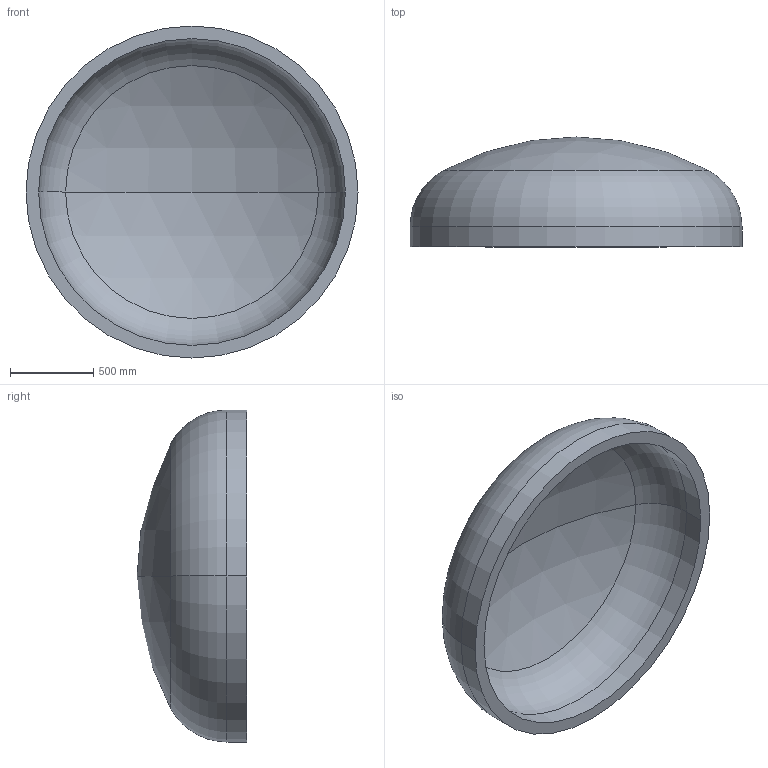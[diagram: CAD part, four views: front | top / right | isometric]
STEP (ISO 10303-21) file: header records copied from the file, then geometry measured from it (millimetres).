
FILE_DESCRIPTION (( 'STEP AP203' ), '1' );
FILE_NAME ('DIN 28013 Korbbogenform_-_Boden DIN 28013 - 2000 x 120 - I - s=76.step', '2016-07-01T14:03:27', ( '' ), ( '' ), 'SwSTEP 2.0', 'SolidWorks 2013', '' );
FILE_SCHEMA (( 'CONFIG_CONTROL_DESIGN' ));
Length unit declared in the file: millimetre
Products named in the file (1): DIN 28013 Korbbogenform_-_Boden DIN 28013 - 2000 x 120 - I - s=76
Bounding box: 2000 x 661.49 x 2000 mm (x, y, z)
Volume: 370306873.3 mm3; surface area: 10216388.4 mm2
Topology: 1 solids, 1 shells, 13 faces, 24 edges, 14 vertices
Faces by surface type: torus 4, cylinder 4, sphere 4, plane 1
Entity records: 407 total; most frequent: DIRECTION 72, CARTESIAN_POINT 52, ORIENTED_EDGE 48, AXIS2_PLACEMENT_3D 34, EDGE_CURVE 24, CIRCLE 20, VERTEX_POINT 14, EDGE_LOOP 14
